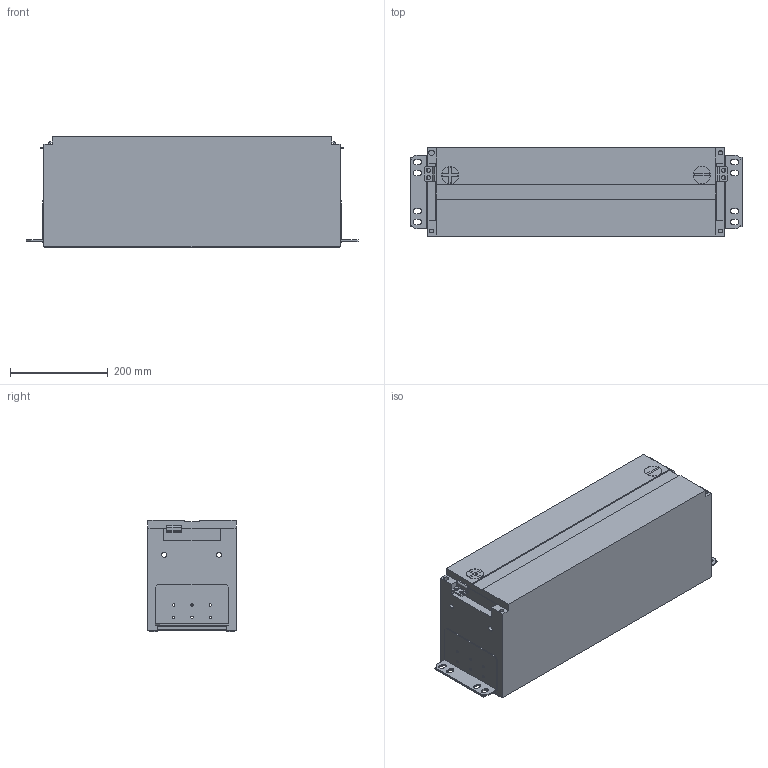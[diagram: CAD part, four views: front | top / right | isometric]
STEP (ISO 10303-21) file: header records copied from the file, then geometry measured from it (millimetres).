
FILE_DESCRIPTION(('CATIA V5 STEP Exchange'),'2;1');
FILE_NAME('E:\work\【02】CBB\二代、三代模组参数化模型\240Ah-11000-1P8S.stp','2017-02-16T07:25:25+00:00',('none'),('none'),'CATIA Version 5 Release 21 GA (IN-10)','CATIA V5 STEP AP214','none');
FILE_SCHEMA(('AUTOMOTIVE_DESIGN { 1 0 10303 214 1 1 1 1 }'));
Length unit declared in the file: millimetre
Products named in the file (1): N176-240M-11000-All
Bounding box: 677.6 x 180 x 226.6 mm (x, y, z)
Volume: 24165573.4 mm3; surface area: 955042.8 mm2
Topology: 4 solids, 4 shells, 244 faces, 692 edges, 472 vertices
Faces by surface type: plane 158, cylinder 86
Entity records: 7652 total; most frequent: ORIENTED_EDGE 1368, CARTESIAN_POINT 1348, DIRECTION 1058, EDGE_CURVE 684, VECTOR 520, LINE 520, VERTEX_POINT 456, AXIS2_PLACEMENT_3D 356
